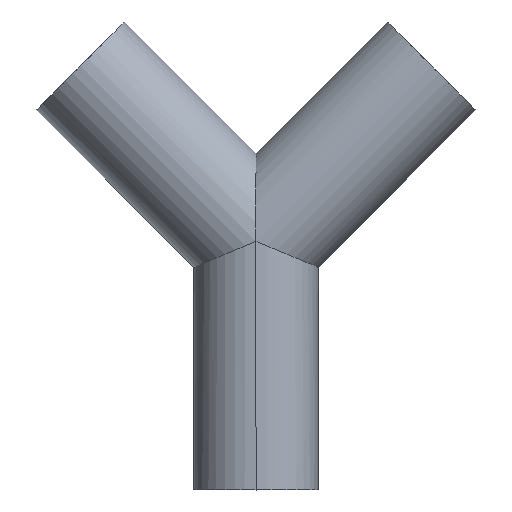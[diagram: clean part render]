
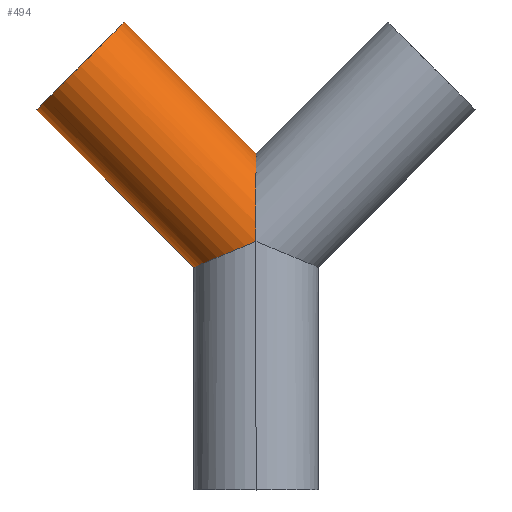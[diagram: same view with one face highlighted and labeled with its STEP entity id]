
A CAD part, top view. The second image highlights one B-rep face of the part: STEP entity #494.
In plain terms, the highlighted cylindrical face has radius 19.05 mm (diameter 38.1 mm), a partial arc.
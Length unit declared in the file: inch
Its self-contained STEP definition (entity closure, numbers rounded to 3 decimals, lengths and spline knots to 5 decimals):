
#21 = DIRECTION ( 'NONE',  ( -0.707, 0.707, 0. ) ) ;
#22 = CARTESIAN_POINT ( 'NONE',  ( 0., 3., 0.75 ) ) ;
#24 = DIRECTION ( 'NONE',  ( -0.707, -0.707, 0. ) ) ;
#40 = CYLINDRICAL_SURFACE ( 'NONE', #233, 0.75 ) ;
#43 = CARTESIAN_POINT ( 'NONE',  ( 0., 4.06066, 0. ) ) ;
#44 = VERTEX_POINT ( 'NONE', #197 ) ;
#47 = FACE_OUTER_BOUND ( 'NONE', #425, .T. ) ;
#64 = CARTESIAN_POINT ( 'NONE',  ( 0., 3., 0. ) ) ;
#67 = CARTESIAN_POINT ( 'NONE',  ( -2.65165, 4.59099, 0. ) ) ;
#68 = VECTOR ( 'NONE', #223, 39.37008 ) ;
#76 =( BOUNDED_CURVE ( )  B_SPLINE_CURVE ( 3, ( #22, #510, #109, #380 ),
 .UNSPECIFIED., .F., .F. ) 
 B_SPLINE_CURVE_WITH_KNOTS ( ( 4, 4 ),
 ( 4.71239, 6.28319 ),
 .UNSPECIFIED. ) 
 CURVE ( )  GEOMETRIC_REPRESENTATION_ITEM ( )  RATIONAL_B_SPLINE_CURVE ( ( 1., 0.805, 0.805, 1. ) ) 
 REPRESENTATION_ITEM ( '' )  );
#90 = CIRCLE ( 'NONE', #152, 0.75 ) ;
#101 = CARTESIAN_POINT ( 'NONE',  ( 0.53033, 3.53033, 0. ) ) ;
#105 = VECTOR ( 'NONE', #21, 39.37008 ) ;
#106 = DIRECTION ( 'NONE',  ( -0.707, 0.707, 0. ) ) ;
#109 = CARTESIAN_POINT ( 'NONE',  ( -0.75, 2.68934, 0.43934 ) ) ;
#119 = LINE ( 'NONE', #101, #105 ) ;
#120 = LINE ( 'NONE', #262, #68 ) ;
#152 = AXIS2_PLACEMENT_3D ( 'NONE', #339, #106, #376 ) ;
#167 = ORIENTED_EDGE ( 'NONE', *, *, #418, .F. ) ;
#189 = DIRECTION ( 'NONE',  ( -0.707, 0.707, 0. ) ) ;
#197 = CARTESIAN_POINT ( 'NONE',  ( -0.75, 2.68934, 0. ) ) ;
#206 = CARTESIAN_POINT ( 'NONE',  ( 0., 3., 0.75 ) ) ;
#223 = DIRECTION ( 'NONE',  ( -0.707, 0.707, 0. ) ) ;
#233 = AXIS2_PLACEMENT_3D ( 'NONE', #64, #189, #24 ) ;
#254 = CARTESIAN_POINT ( 'NONE',  ( 0., 4.06066, 0. ) ) ;
#262 = CARTESIAN_POINT ( 'NONE',  ( -0.53033, 2.46967, 0. ) ) ;
#263 = CARTESIAN_POINT ( 'NONE',  ( 0., 3., 0.75 ) ) ;
#266 =( BOUNDED_CURVE ( )  B_SPLINE_CURVE ( 3, ( #206, #490, #484, #43 ),
 .UNSPECIFIED., .F., .T. ) 
 B_SPLINE_CURVE_WITH_KNOTS ( ( 4, 4 ),
 ( 4.71239, 6.28319 ),
 .UNSPECIFIED. ) 
 CURVE ( )  GEOMETRIC_REPRESENTATION_ITEM ( )  RATIONAL_B_SPLINE_CURVE ( ( 1., 0.805, 0.805, 1. ) ) 
 REPRESENTATION_ITEM ( '' )  );
#299 = CARTESIAN_POINT ( 'NONE',  ( -1.59099, 5.65165, 0. ) ) ;
#306 = EDGE_CURVE ( 'NONE', #311, #364, #266, .T. ) ;
#311 = VERTEX_POINT ( 'NONE', #263 ) ;
#339 = CARTESIAN_POINT ( 'NONE',  ( -2.12132, 5.12132, 0. ) ) ;
#364 = VERTEX_POINT ( 'NONE', #254 ) ;
#376 = DIRECTION ( 'NONE',  ( -0.707, -0.707, 0. ) ) ;
#380 = CARTESIAN_POINT ( 'NONE',  ( -0.75, 2.68934, 0. ) ) ;
#391 = EDGE_CURVE ( 'NONE', #364, #457, #119, .T. ) ;
#418 = EDGE_CURVE ( 'NONE', #534, #457, #90, .T. ) ;
#422 = ORIENTED_EDGE ( 'NONE', *, *, #446, .F. ) ;
#423 = ORIENTED_EDGE ( 'NONE', *, *, #473, .F. ) ;
#425 = EDGE_LOOP ( 'NONE', ( #442, #452, #167, #422, #423 ) ) ;
#442 = ORIENTED_EDGE ( 'NONE', *, *, #306, .T. ) ;
#446 = EDGE_CURVE ( 'NONE', #44, #534, #120, .T. ) ;
#452 = ORIENTED_EDGE ( 'NONE', *, *, #391, .T. ) ;
#457 = VERTEX_POINT ( 'NONE', #299 ) ;
#473 = EDGE_CURVE ( 'NONE', #311, #44, #76, .T. ) ;
#484 = CARTESIAN_POINT ( 'NONE',  ( 0., 4.06066, 0.43934 ) ) ;
#490 = CARTESIAN_POINT ( 'NONE',  ( 0., 3.62132, 0.75 ) ) ;
#494 = ADVANCED_FACE ( 'NONE', ( #47 ), #40, .T. ) ;
#510 = CARTESIAN_POINT ( 'NONE',  ( -0.43934, 2.81802, 0.75 ) ) ;
#534 = VERTEX_POINT ( 'NONE', #67 ) ;
